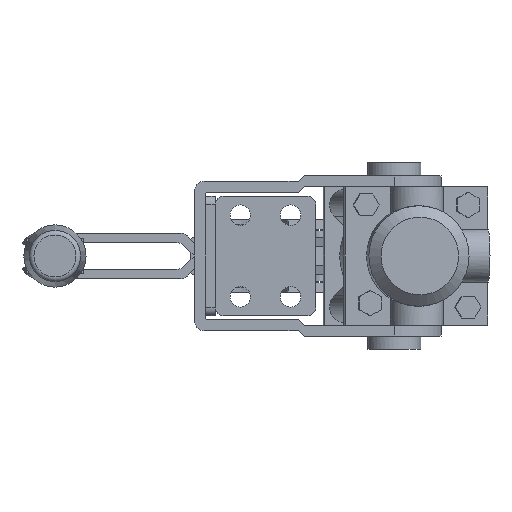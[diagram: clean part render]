
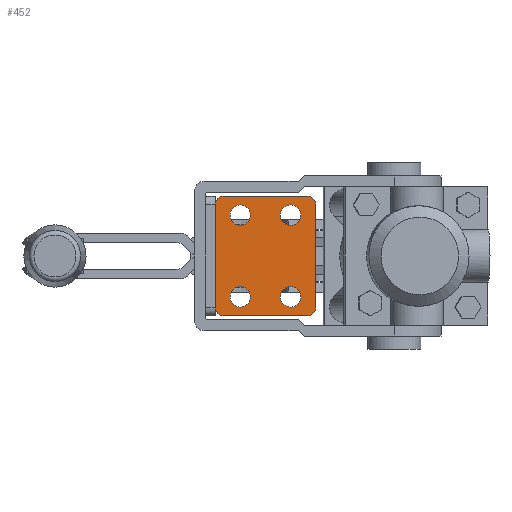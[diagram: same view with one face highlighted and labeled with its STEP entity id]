
A CAD part, front view. The second image highlights one B-rep face of the part: STEP entity #452.
In plain terms, the highlighted planar face has unit normal (0, -1, 0).
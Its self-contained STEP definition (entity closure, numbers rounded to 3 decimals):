
#452 = ADVANCED_FACE( '', ( #930, #931, #932, #933, #934 ), #935, .F. );
#930 = FACE_BOUND( '', #2002, .T. );
#931 = FACE_BOUND( '', #2003, .T. );
#932 = FACE_BOUND( '', #2004, .T. );
#933 = FACE_BOUND( '', #2005, .T. );
#934 = FACE_OUTER_BOUND( '', #2006, .T. );
#935 = PLANE( '', #2007 );
#2002 = EDGE_LOOP( '', ( #3156 ) );
#2003 = EDGE_LOOP( '', ( #3157 ) );
#2004 = EDGE_LOOP( '', ( #3158 ) );
#2005 = EDGE_LOOP( '', ( #3159 ) );
#2006 = EDGE_LOOP( '', ( #3160, #3161, #3162, #3163, #3164, #3165, #3166, #3167 ) );
#2007 = AXIS2_PLACEMENT_3D( '', #3168, #3169, #3170 );
#3156 = ORIENTED_EDGE( '', *, *, #6800, .T. );
#3157 = ORIENTED_EDGE( '', *, *, #6801, .T. );
#3158 = ORIENTED_EDGE( '', *, *, #6802, .T. );
#3159 = ORIENTED_EDGE( '', *, *, #6803, .T. );
#3160 = ORIENTED_EDGE( '', *, *, #6744, .T. );
#3161 = ORIENTED_EDGE( '', *, *, #6804, .F. );
#3162 = ORIENTED_EDGE( '', *, *, #6752, .T. );
#3163 = ORIENTED_EDGE( '', *, *, #6805, .F. );
#3164 = ORIENTED_EDGE( '', *, *, #6763, .F. );
#3165 = ORIENTED_EDGE( '', *, *, #6806, .F. );
#3166 = ORIENTED_EDGE( '', *, *, #6748, .F. );
#3167 = ORIENTED_EDGE( '', *, *, #6807, .F. );
#3168 = CARTESIAN_POINT( '', ( -0.5, 0., -20.8 ) );
#3169 = DIRECTION( '', ( 0., 1., 0. ) );
#3170 = DIRECTION( '', ( 0., 0., 1. ) );
#6744 = EDGE_CURVE( '', #7903, #7901, #7904, .T. );
#6748 = EDGE_CURVE( '', #7910, #7911, #7912, .T. );
#6752 = EDGE_CURVE( '', #7918, #7919, #7920, .T. );
#6763 = EDGE_CURVE( '', #7939, #7940, #7941, .T. );
#6800 = EDGE_CURVE( '', #8012, #8012, #8013, .T. );
#6801 = EDGE_CURVE( '', #8014, #8014, #8015, .T. );
#6802 = EDGE_CURVE( '', #8016, #8016, #8017, .T. );
#6803 = EDGE_CURVE( '', #8018, #8018, #8019, .T. );
#6804 = EDGE_CURVE( '', #7918, #7901, #8020, .T. );
#6805 = EDGE_CURVE( '', #7940, #7919, #8021, .T. );
#6806 = EDGE_CURVE( '', #7911, #7939, #8022, .T. );
#6807 = EDGE_CURVE( '', #7903, #7910, #8023, .T. );
#7901 = VERTEX_POINT( '', #9851 );
#7903 = VERTEX_POINT( '', #9854 );
#7904 = LINE( '', #9855, #9856 );
#7910 = VERTEX_POINT( '', #9865 );
#7911 = VERTEX_POINT( '', #9866 );
#7912 = LINE( '', #9867, #9868 );
#7918 = VERTEX_POINT( '', #9877 );
#7919 = VERTEX_POINT( '', #9878 );
#7920 = LINE( '', #9879, #9880 );
#7939 = VERTEX_POINT( '', #9909 );
#7940 = VERTEX_POINT( '', #9910 );
#7941 = LINE( '', #9911, #9912 );
#8012 = VERTEX_POINT( '', #10011 );
#8013 = CIRCLE( '', #10012, 3.25 );
#8014 = VERTEX_POINT( '', #10013 );
#8015 = CIRCLE( '', #10014, 3.25 );
#8016 = VERTEX_POINT( '', #10015 );
#8017 = CIRCLE( '', #10016, 3.25 );
#8018 = VERTEX_POINT( '', #10017 );
#8019 = CIRCLE( '', #10018, 3.25 );
#8020 = CIRCLE( '', #10019, 2.5 );
#8021 = CIRCLE( '', #10020, 2.5 );
#8022 = CIRCLE( '', #10021, 2.5 );
#8023 = CIRCLE( '', #10022, 2.5 );
#9851 = CARTESIAN_POINT( '', ( 3., 0., -16.5 ) );
#9854 = CARTESIAN_POINT( '', ( 3., 0., 16.5 ) );
#9855 = CARTESIAN_POINT( '', ( 3., 0., 19.5 ) );
#9856 = VECTOR( '', #13731, 1000. );
#9865 = CARTESIAN_POINT( '', ( 5.5, 0., 19. ) );
#9866 = CARTESIAN_POINT( '', ( 32.5, 0., 19. ) );
#9867 = CARTESIAN_POINT( '', ( 0., 0., 19. ) );
#9868 = VECTOR( '', #13735, 1000. );
#9877 = CARTESIAN_POINT( '', ( 5.5, 0., -19. ) );
#9878 = CARTESIAN_POINT( '', ( 32.5, 0., -19. ) );
#9879 = CARTESIAN_POINT( '', ( 0., 0., -19. ) );
#9880 = VECTOR( '', #13739, 1000. );
#9909 = CARTESIAN_POINT( '', ( 35., 0., 16.5 ) );
#9910 = CARTESIAN_POINT( '', ( 35., 0., -16.5 ) );
#9911 = CARTESIAN_POINT( '', ( 35., 0., 19. ) );
#9912 = VECTOR( '', #13750, 1000. );
#10011 = CARTESIAN_POINT( '', ( 30.25, 0., 13. ) );
#10012 = AXIS2_PLACEMENT_3D( '', #13803, #13804, #13805 );
#10013 = CARTESIAN_POINT( '', ( 14.25, 0., 13. ) );
#10014 = AXIS2_PLACEMENT_3D( '', #13806, #13807, #13808 );
#10015 = CARTESIAN_POINT( '', ( 30.25, 0., -13. ) );
#10016 = AXIS2_PLACEMENT_3D( '', #13809, #13810, #13811 );
#10017 = CARTESIAN_POINT( '', ( 14.25, 0., -13. ) );
#10018 = AXIS2_PLACEMENT_3D( '', #13812, #13813, #13814 );
#10019 = AXIS2_PLACEMENT_3D( '', #13815, #13816, #13817 );
#10020 = AXIS2_PLACEMENT_3D( '', #13818, #13819, #13820 );
#10021 = AXIS2_PLACEMENT_3D( '', #13821, #13822, #13823 );
#10022 = AXIS2_PLACEMENT_3D( '', #13824, #13825, #13826 );
#13731 = DIRECTION( '', ( 0., 0., -1. ) );
#13735 = DIRECTION( '', ( 1., 0., 0. ) );
#13739 = DIRECTION( '', ( 1., 0., 0. ) );
#13750 = DIRECTION( '', ( 0., 0., -1. ) );
#13803 = CARTESIAN_POINT( '', ( 27., 0., 13. ) );
#13804 = DIRECTION( '', ( 0., 1., 0. ) );
#13805 = DIRECTION( '', ( 1., 0., 0. ) );
#13806 = CARTESIAN_POINT( '', ( 11., 0., 13. ) );
#13807 = DIRECTION( '', ( 0., 1., 0. ) );
#13808 = DIRECTION( '', ( 1., 0., 0. ) );
#13809 = CARTESIAN_POINT( '', ( 27., 0., -13. ) );
#13810 = DIRECTION( '', ( 0., 1., 0. ) );
#13811 = DIRECTION( '', ( 1., 0., 0. ) );
#13812 = CARTESIAN_POINT( '', ( 11., 0., -13. ) );
#13813 = DIRECTION( '', ( 0., 1., 0. ) );
#13814 = DIRECTION( '', ( 1., 0., 0. ) );
#13815 = CARTESIAN_POINT( '', ( 5.5, 0., -16.5 ) );
#13816 = DIRECTION( '', ( 0., 1., 0. ) );
#13817 = DIRECTION( '', ( 1., 0., 0. ) );
#13818 = CARTESIAN_POINT( '', ( 32.5, 0., -16.5 ) );
#13819 = DIRECTION( '', ( 0., 1., 0. ) );
#13820 = DIRECTION( '', ( 1., 0., 0. ) );
#13821 = CARTESIAN_POINT( '', ( 32.5, 0., 16.5 ) );
#13822 = DIRECTION( '', ( 0., 1., 0. ) );
#13823 = DIRECTION( '', ( 1., 0., 0. ) );
#13824 = CARTESIAN_POINT( '', ( 5.5, 0., 16.5 ) );
#13825 = DIRECTION( '', ( 0., 1., 0. ) );
#13826 = DIRECTION( '', ( 1., 0., 0. ) );
